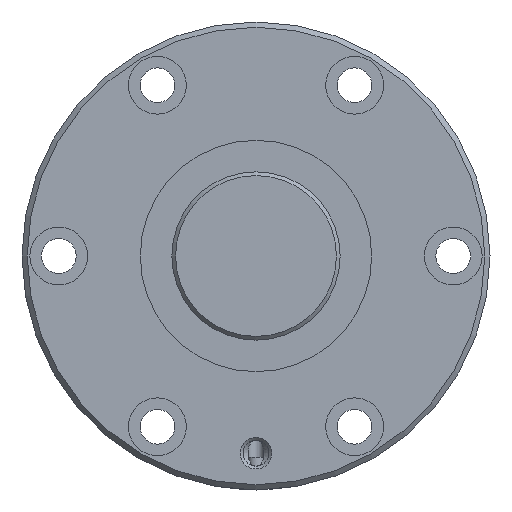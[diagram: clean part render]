
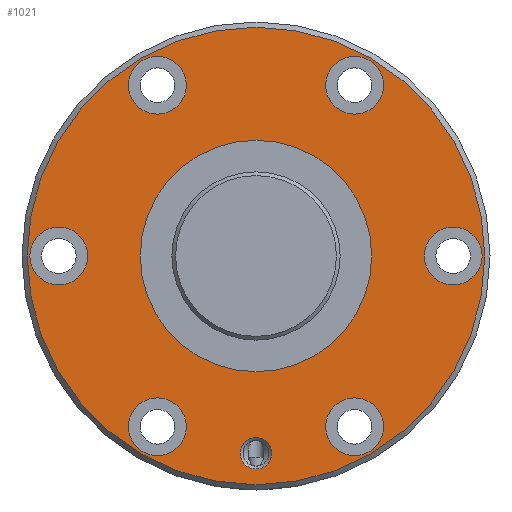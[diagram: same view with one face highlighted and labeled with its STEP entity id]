
A CAD part, left-side view. The second image highlights one B-rep face of the part: STEP entity #1021.
In plain terms, the highlighted planar face has unit normal (-1, 0, 0).
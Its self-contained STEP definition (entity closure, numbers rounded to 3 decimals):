
#162=ORIENTED_EDGE('',*,*,#385,.T.);
#163=ORIENTED_EDGE('',*,*,#386,.T.);
#164=ORIENTED_EDGE('',*,*,#387,.T.);
#165=ORIENTED_EDGE('',*,*,#388,.T.);
#166=ORIENTED_EDGE('',*,*,#389,.T.);
#167=ORIENTED_EDGE('',*,*,#390,.T.);
#168=ORIENTED_EDGE('',*,*,#391,.T.);
#169=ORIENTED_EDGE('',*,*,#392,.T.);
#170=ORIENTED_EDGE('',*,*,#384,.F.);
#384=EDGE_CURVE('',#499,#499,#593,.T.);
#385=EDGE_CURVE('',#500,#500,#594,.T.);
#386=EDGE_CURVE('',#501,#501,#595,.F.);
#387=EDGE_CURVE('',#502,#502,#596,.T.);
#388=EDGE_CURVE('',#503,#503,#597,.T.);
#389=EDGE_CURVE('',#504,#504,#598,.T.);
#390=EDGE_CURVE('',#505,#505,#599,.T.);
#391=EDGE_CURVE('',#506,#506,#600,.T.);
#392=EDGE_CURVE('',#507,#507,#601,.T.);
#499=VERTEX_POINT('',#1708);
#500=VERTEX_POINT('',#1711);
#501=VERTEX_POINT('',#1713);
#502=VERTEX_POINT('',#1715);
#503=VERTEX_POINT('',#1717);
#504=VERTEX_POINT('',#1719);
#505=VERTEX_POINT('',#1721);
#506=VERTEX_POINT('',#1723);
#507=VERTEX_POINT('',#1725);
#593=CIRCLE('',#1136,43.5);
#594=CIRCLE('',#1138,22.);
#595=CIRCLE('',#1139,5.5);
#596=CIRCLE('',#1140,3.);
#597=CIRCLE('',#1141,5.5);
#598=CIRCLE('',#1142,5.5);
#599=CIRCLE('',#1143,5.5);
#600=CIRCLE('',#1144,5.5);
#601=CIRCLE('',#1145,5.5);
#682=EDGE_LOOP('',(#162));
#683=EDGE_LOOP('',(#163));
#684=EDGE_LOOP('',(#164));
#685=EDGE_LOOP('',(#165));
#686=EDGE_LOOP('',(#166));
#687=EDGE_LOOP('',(#167));
#688=EDGE_LOOP('',(#168));
#689=EDGE_LOOP('',(#169));
#690=EDGE_LOOP('',(#170));
#842=FACE_BOUND('',#682,.T.);
#843=FACE_BOUND('',#683,.T.);
#844=FACE_BOUND('',#684,.T.);
#845=FACE_BOUND('',#685,.T.);
#846=FACE_BOUND('',#686,.T.);
#847=FACE_BOUND('',#687,.T.);
#848=FACE_BOUND('',#688,.T.);
#849=FACE_BOUND('',#689,.T.);
#850=FACE_BOUND('',#690,.T.);
#984=PLANE('',#1137);
#1021=ADVANCED_FACE('',(#842,#843,#844,#845,#846,#847,#848,#849,#850),#984,
 .T.);
#1136=AXIS2_PLACEMENT_3D('',#1707,#1322,#1323);
#1137=AXIS2_PLACEMENT_3D('',#1709,#1324,#1325);
#1138=AXIS2_PLACEMENT_3D('',#1710,#1326,#1327);
#1139=AXIS2_PLACEMENT_3D('',#1712,#1328,#1329);
#1140=AXIS2_PLACEMENT_3D('',#1714,#1330,#1331);
#1141=AXIS2_PLACEMENT_3D('',#1716,#1332,#1333);
#1142=AXIS2_PLACEMENT_3D('',#1718,#1334,#1335);
#1143=AXIS2_PLACEMENT_3D('',#1720,#1336,#1337);
#1144=AXIS2_PLACEMENT_3D('',#1722,#1338,#1339);
#1145=AXIS2_PLACEMENT_3D('',#1724,#1340,#1341);
#1322=DIRECTION('',(1.,0.,0.));
#1323=DIRECTION('',(0.,0.,-1.));
#1324=DIRECTION('',(-1.,0.,0.));
#1325=DIRECTION('',(0.,0.,1.));
#1326=DIRECTION('',(1.,0.,0.));
#1327=DIRECTION('',(0.,0.,-1.));
#1328=DIRECTION('',(-1.,0.,0.));
#1329=DIRECTION('',(0.,0.,1.));
#1330=DIRECTION('',(1.,0.,0.));
#1331=DIRECTION('',(0.,0.,-1.));
#1332=DIRECTION('',(1.,0.,0.));
#1333=DIRECTION('',(0.,0.,-1.));
#1334=DIRECTION('',(1.,0.,0.));
#1335=DIRECTION('',(0.,0.,-1.));
#1336=DIRECTION('',(1.,0.,0.));
#1337=DIRECTION('',(0.,0.,-1.));
#1338=DIRECTION('',(1.,0.,0.));
#1339=DIRECTION('',(0.,0.,-1.));
#1340=DIRECTION('',(1.,0.,0.));
#1341=DIRECTION('',(0.,0.,-1.));
#1707=CARTESIAN_POINT('',(0.,0.,0.));
#1708=CARTESIAN_POINT('',(0.,0.,-43.5));
#1709=CARTESIAN_POINT('',(0.,43.5,0.));
#1710=CARTESIAN_POINT('',(0.,0.,0.));
#1711=CARTESIAN_POINT('',(0.,0.,-22.));
#1712=CARTESIAN_POINT('',(0.,37.5,0.));
#1713=CARTESIAN_POINT('',(0.,37.5,5.5));
#1714=CARTESIAN_POINT('',(0.,0.,-37.5));
#1715=CARTESIAN_POINT('',(0.,0.,-40.5));
#1716=CARTESIAN_POINT('',(0.,-37.5,0.));
#1717=CARTESIAN_POINT('',(0.,-37.5,-5.5));
#1718=CARTESIAN_POINT('',(0.,18.75,32.476));
#1719=CARTESIAN_POINT('',(0.,18.75,26.976));
#1720=CARTESIAN_POINT('',(0.,-18.75,-32.476));
#1721=CARTESIAN_POINT('',(0.,-18.75,-37.976));
#1722=CARTESIAN_POINT('',(0.,-18.75,32.476));
#1723=CARTESIAN_POINT('',(0.,-18.75,26.976));
#1724=CARTESIAN_POINT('',(0.,18.75,-32.476));
#1725=CARTESIAN_POINT('',(0.,18.75,-37.976));
